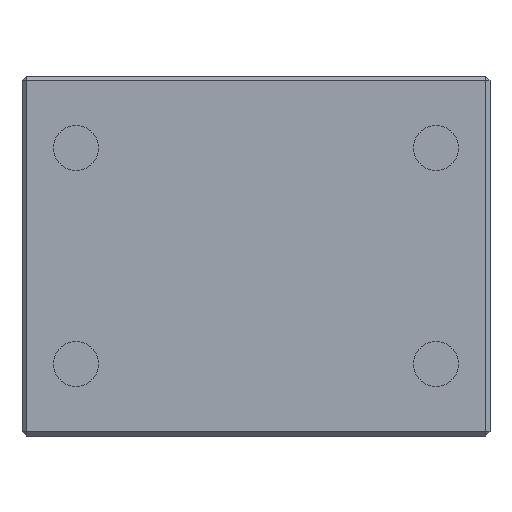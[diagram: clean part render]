
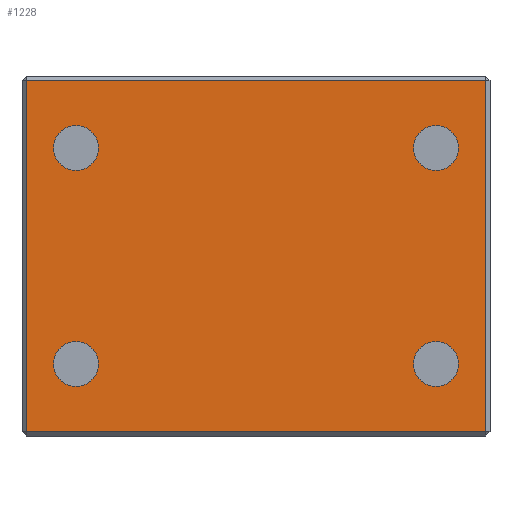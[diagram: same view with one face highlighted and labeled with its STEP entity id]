
A CAD part, front view. The second image highlights one B-rep face of the part: STEP entity #1228.
In plain terms, the highlighted planar face has unit normal (0, -1, 0).
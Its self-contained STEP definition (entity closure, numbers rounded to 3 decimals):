
#4 = CARTESIAN_POINT ( 'NONE',  ( 20., -20., -8. ) ) ;
#15 = VECTOR ( 'NONE', #974, 1000. ) ;
#17 = EDGE_LOOP ( 'NONE', ( #79, #618 ) ) ;
#22 = DIRECTION ( 'NONE',  ( 0., 1., 0. ) ) ;
#41 = DIRECTION ( 'NONE',  ( -1., 0., 0. ) ) ;
#43 = CARTESIAN_POINT ( 'NONE',  ( -20., -20., -8. ) ) ;
#61 = CIRCLE ( 'NONE', #721, 2.5 ) ;
#68 = CIRCLE ( 'NONE', #1678, 2.5 ) ;
#75 = LINE ( 'NONE', #326, #1245 ) ;
#76 = CARTESIAN_POINT ( 'NONE',  ( -22.5, -20., -8. ) ) ;
#79 = ORIENTED_EDGE ( 'NONE', *, *, #861, .T. ) ;
#82 = DIRECTION ( 'NONE',  ( 0., 0., -1. ) ) ;
#84 = EDGE_CURVE ( 'NONE', #1166, #1529, #306, .T. ) ;
#97 = CARTESIAN_POINT ( 'NONE',  ( -25.5, -20., -0.5 ) ) ;
#98 = VECTOR ( 'NONE', #1293, 1000. ) ;
#119 = ORIENTED_EDGE ( 'NONE', *, *, #1170, .F. ) ;
#126 = CIRCLE ( 'NONE', #788, 2.5 ) ;
#139 = VERTEX_POINT ( 'NONE', #647 ) ;
#169 = LINE ( 'NONE', #1625, #15 ) ;
#175 = ORIENTED_EDGE ( 'NONE', *, *, #1423, .F. ) ;
#223 = PLANE ( 'NONE',  #1540 ) ;
#256 = AXIS2_PLACEMENT_3D ( 'NONE', #642, #937, #916 ) ;
#266 = AXIS2_PLACEMENT_3D ( 'NONE', #480, #1412, #1152 ) ;
#288 = DIRECTION ( 'NONE',  ( 0., 1., 0. ) ) ;
#306 = CIRCLE ( 'NONE', #883, 2.5 ) ;
#326 = CARTESIAN_POINT ( 'NONE',  ( 25.5, -20., 0. ) ) ;
#336 = ORIENTED_EDGE ( 'NONE', *, *, #1122, .F. ) ;
#339 = EDGE_CURVE ( 'NONE', #1296, #1023, #1375, .T. ) ;
#341 = DIRECTION ( 'NONE',  ( 0., 0., -1. ) ) ;
#348 = FACE_BOUND ( 'NONE', #787, .T. ) ;
#362 = CARTESIAN_POINT ( 'NONE',  ( -20., -20., -32. ) ) ;
#366 = VERTEX_POINT ( 'NONE', #1508 ) ;
#399 = CARTESIAN_POINT ( 'NONE',  ( -20., -20., -32. ) ) ;
#449 = CARTESIAN_POINT ( 'NONE',  ( 17.5, -20., -8. ) ) ;
#480 = CARTESIAN_POINT ( 'NONE',  ( 20., -20., -32. ) ) ;
#527 = DIRECTION ( 'NONE',  ( 1., 0., 0. ) ) ;
#538 = AXIS2_PLACEMENT_3D ( 'NONE', #399, #1211, #1070 ) ;
#568 = DIRECTION ( 'NONE',  ( 0., 1., 0. ) ) ;
#613 = FACE_OUTER_BOUND ( 'NONE', #931, .T. ) ;
#618 = ORIENTED_EDGE ( 'NONE', *, *, #1553, .T. ) ;
#626 = VECTOR ( 'NONE', #41, 1000. ) ;
#642 = CARTESIAN_POINT ( 'NONE',  ( -20., -20., -8. ) ) ;
#645 = AXIS2_PLACEMENT_3D ( 'NONE', #362, #1541, #1277 ) ;
#647 = CARTESIAN_POINT ( 'NONE',  ( 22.5, -20., -32. ) ) ;
#721 = AXIS2_PLACEMENT_3D ( 'NONE', #1693, #1684, #1258 ) ;
#770 = DIRECTION ( 'NONE',  ( 1., 0., 0. ) ) ;
#784 = EDGE_CURVE ( 'NONE', #139, #1306, #61, .T. ) ;
#787 = EDGE_LOOP ( 'NONE', ( #1492, #1546 ) ) ;
#788 = AXIS2_PLACEMENT_3D ( 'NONE', #4, #22, #527 ) ;
#814 = VERTEX_POINT ( 'NONE', #76 ) ;
#823 = CARTESIAN_POINT ( 'NONE',  ( -25.5, -20., -39.5 ) ) ;
#861 = EDGE_CURVE ( 'NONE', #1531, #814, #1591, .T. ) ;
#883 = AXIS2_PLACEMENT_3D ( 'NONE', #1106, #288, #1639 ) ;
#914 = CARTESIAN_POINT ( 'NONE',  ( 25.5, -20., -39.5 ) ) ;
#916 = DIRECTION ( 'NONE',  ( 1., 0., 0. ) ) ;
#931 = EDGE_LOOP ( 'NONE', ( #175, #1704, #336, #119 ) ) ;
#937 = DIRECTION ( 'NONE',  ( 0., 1., 0. ) ) ;
#952 = ORIENTED_EDGE ( 'NONE', *, *, #1314, .T. ) ;
#974 = DIRECTION ( 'NONE',  ( 0., 0., 1. ) ) ;
#982 = CARTESIAN_POINT ( 'NONE',  ( -17.5, -20., -8. ) ) ;
#1011 = CIRCLE ( 'NONE', #266, 2.5 ) ;
#1023 = VERTEX_POINT ( 'NONE', #823 ) ;
#1025 = FACE_BOUND ( 'NONE', #1301, .T. ) ;
#1031 = CARTESIAN_POINT ( 'NONE',  ( 22.5, -20., -8. ) ) ;
#1035 = CIRCLE ( 'NONE', #645, 2.5 ) ;
#1053 = EDGE_LOOP ( 'NONE', ( #1118, #952 ) ) ;
#1066 = CIRCLE ( 'NONE', #538, 2.5 ) ;
#1070 = DIRECTION ( 'NONE',  ( 1., 0., 0. ) ) ;
#1106 = CARTESIAN_POINT ( 'NONE',  ( 20., -20., -8. ) ) ;
#1118 = ORIENTED_EDGE ( 'NONE', *, *, #84, .T. ) ;
#1122 = EDGE_CURVE ( 'NONE', #1565, #1296, #75, .T. ) ;
#1135 = CARTESIAN_POINT ( 'NONE',  ( 13., -20., -0.5 ) ) ;
#1143 = DIRECTION ( 'NONE',  ( 0., -1., 0. ) ) ;
#1151 = CARTESIAN_POINT ( 'NONE',  ( -17.5, -20., -32. ) ) ;
#1152 = DIRECTION ( 'NONE',  ( 1., 0., 0. ) ) ;
#1166 = VERTEX_POINT ( 'NONE', #1031 ) ;
#1170 = EDGE_CURVE ( 'NONE', #1582, #1565, #1671, .T. ) ;
#1203 = EDGE_CURVE ( 'NONE', #1306, #139, #1011, .T. ) ;
#1211 = DIRECTION ( 'NONE',  ( 0., 1., 0. ) ) ;
#1223 = EDGE_CURVE ( 'NONE', #366, #1619, #1035, .T. ) ;
#1228 = ADVANCED_FACE ( 'NONE', ( #613, #1285, #1665, #348, #1025 ), #223, .T. ) ;
#1245 = VECTOR ( 'NONE', #341, 1000. ) ;
#1258 = DIRECTION ( 'NONE',  ( 1., 0., 0. ) ) ;
#1273 = EDGE_CURVE ( 'NONE', #1619, #366, #1066, .T. ) ;
#1277 = DIRECTION ( 'NONE',  ( 1., 0., 0. ) ) ;
#1285 = FACE_BOUND ( 'NONE', #1053, .T. ) ;
#1293 = DIRECTION ( 'NONE',  ( 1., 0., 0. ) ) ;
#1296 = VERTEX_POINT ( 'NONE', #914 ) ;
#1301 = EDGE_LOOP ( 'NONE', ( #1638, #1371 ) ) ;
#1306 = VERTEX_POINT ( 'NONE', #1476 ) ;
#1314 = EDGE_CURVE ( 'NONE', #1529, #1166, #126, .T. ) ;
#1367 = CARTESIAN_POINT ( 'NONE',  ( 13., -20., -39.5 ) ) ;
#1371 = ORIENTED_EDGE ( 'NONE', *, *, #1223, .T. ) ;
#1375 = LINE ( 'NONE', #1367, #626 ) ;
#1412 = DIRECTION ( 'NONE',  ( 0., 1., 0. ) ) ;
#1423 = EDGE_CURVE ( 'NONE', #1023, #1582, #169, .T. ) ;
#1439 = CARTESIAN_POINT ( 'NONE',  ( 25.5, -20., -0.5 ) ) ;
#1476 = CARTESIAN_POINT ( 'NONE',  ( 17.5, -20., -32. ) ) ;
#1492 = ORIENTED_EDGE ( 'NONE', *, *, #784, .T. ) ;
#1508 = CARTESIAN_POINT ( 'NONE',  ( -22.5, -20., -32. ) ) ;
#1529 = VERTEX_POINT ( 'NONE', #449 ) ;
#1531 = VERTEX_POINT ( 'NONE', #982 ) ;
#1535 = CARTESIAN_POINT ( 'NONE',  ( 26., -20., 0. ) ) ;
#1540 = AXIS2_PLACEMENT_3D ( 'NONE', #1535, #1143, #82 ) ;
#1541 = DIRECTION ( 'NONE',  ( 0., 1., 0. ) ) ;
#1546 = ORIENTED_EDGE ( 'NONE', *, *, #1203, .T. ) ;
#1553 = EDGE_CURVE ( 'NONE', #814, #1531, #68, .T. ) ;
#1565 = VERTEX_POINT ( 'NONE', #1439 ) ;
#1582 = VERTEX_POINT ( 'NONE', #97 ) ;
#1591 = CIRCLE ( 'NONE', #256, 2.5 ) ;
#1619 = VERTEX_POINT ( 'NONE', #1151 ) ;
#1625 = CARTESIAN_POINT ( 'NONE',  ( -25.5, -20., 0. ) ) ;
#1638 = ORIENTED_EDGE ( 'NONE', *, *, #1273, .T. ) ;
#1639 = DIRECTION ( 'NONE',  ( 1., 0., 0. ) ) ;
#1665 = FACE_BOUND ( 'NONE', #17, .T. ) ;
#1671 = LINE ( 'NONE', #1135, #98 ) ;
#1678 = AXIS2_PLACEMENT_3D ( 'NONE', #43, #568, #770 ) ;
#1684 = DIRECTION ( 'NONE',  ( 0., 1., 0. ) ) ;
#1693 = CARTESIAN_POINT ( 'NONE',  ( 20., -20., -32. ) ) ;
#1704 = ORIENTED_EDGE ( 'NONE', *, *, #339, .F. ) ;
